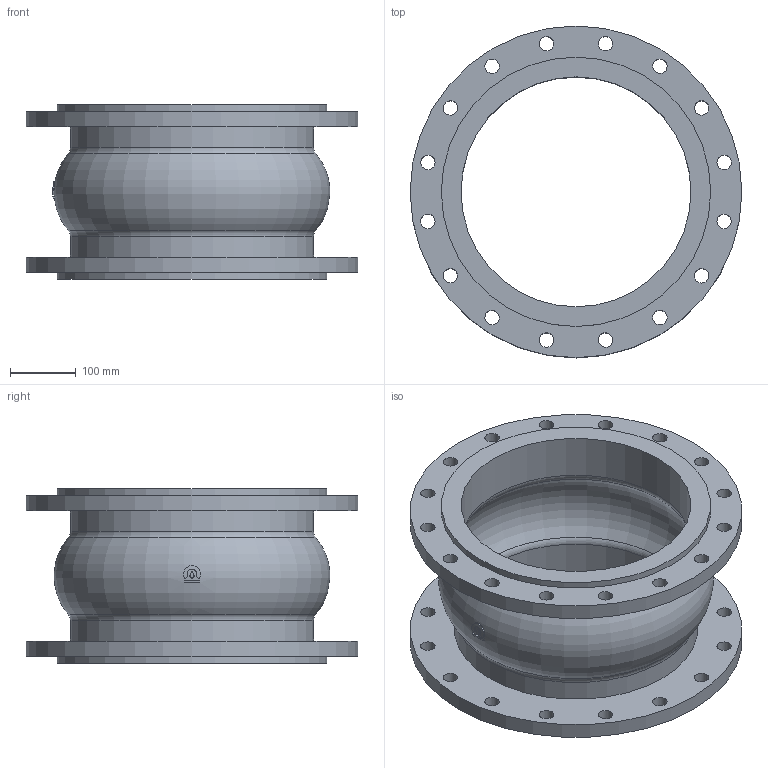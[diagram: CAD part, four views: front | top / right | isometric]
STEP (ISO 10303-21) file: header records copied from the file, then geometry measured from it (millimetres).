
FILE_DESCRIPTION(('STEP AP203'), '1');
FILE_NAME('Êîìïåíñàòîð KMS DN350 PN10_L265', '', ('UNSPECIFIED'), ('UNSPECIFIED'), 'ASCON STEP Converter 1.6', 'ASCON Math Kernel', '');
FILE_SCHEMA(('CONFIG_CONTROL_DESIGN'));
Length unit declared in the file: millimetre
Bounding box: 505 x 505 x 265 mm (x, y, z)
Volume: 7851495.9 mm3; surface area: 1099122.2 mm2
Topology: 1 solids, 1 shells, 69 faces, 172 edges, 112 vertices
Faces by surface type: cylinder 47, plane 13, torus 9
Full cylindrical faces by diameter (mm): 22 x32, 350 x2, 370 x2, 410 x2, 505 x2
Entity records: 3566 total; most frequent: CARTESIAN_POINT 1337, DIRECTION 334, ORIENTED_EDGE 252, EDGE_LOOP 188, AXIS2_PLACEMENT_3D 160, EDGE_CURVE 126, VERTEX_POINT 112, FACE_BOUND 96
